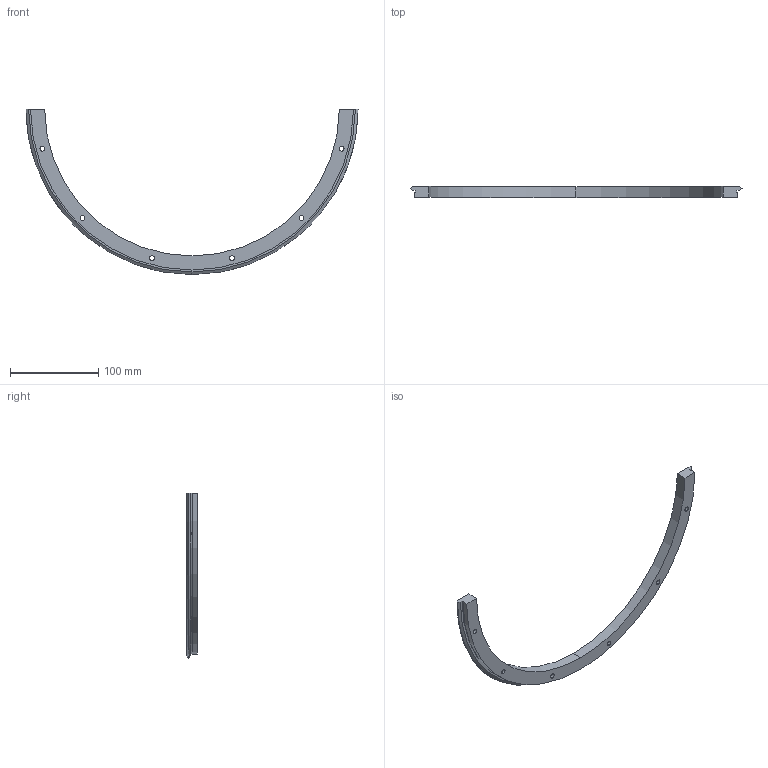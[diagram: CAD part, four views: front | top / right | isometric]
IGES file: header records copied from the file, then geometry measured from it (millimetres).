
Start section: 3D InterOp IGES (v. 2020 1.0.1), Spatial Corp. Copyright (c) 1999-2017.
Global section: file name: res_376_r180.igs; native system: Spatial Corp.; preprocessor: 3D InterOp ACIS/IGES; author: TraceParts; organization: TraceParts S.A.; date: 20220624.101330; units: millimetre
Bounding box: 376.21 x 12.25 x 187.11 mm (x, y, z)
Surface area: 37783.3 mm2 (no closed solid volume)
Topology: 0 solids, 0 shells, 50 faces, 246 edges, 246 vertices
Faces by surface type: revolution 38, extrusion 12
